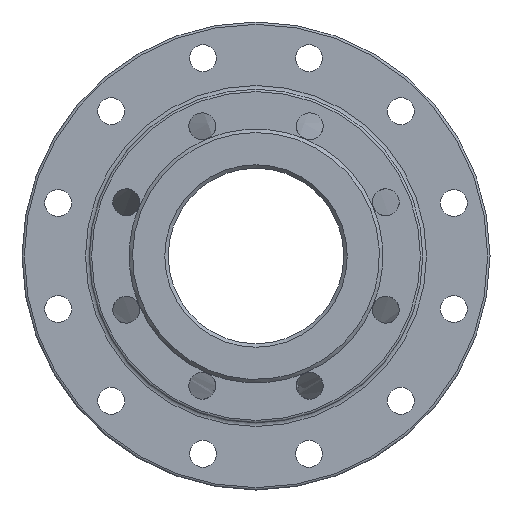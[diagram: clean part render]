
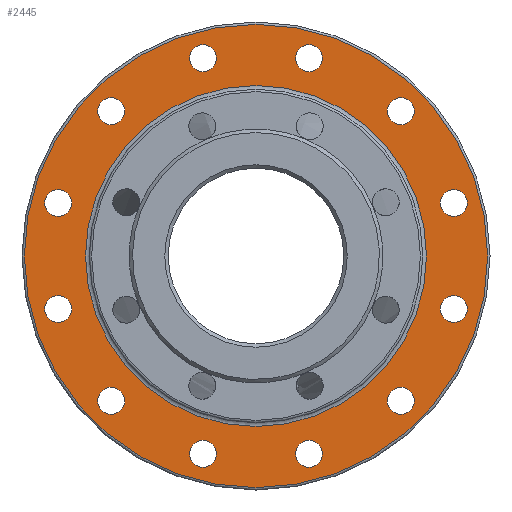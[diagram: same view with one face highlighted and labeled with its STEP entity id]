
A CAD part, left-side view. The second image highlights one B-rep face of the part: STEP entity #2445.
In plain terms, the highlighted planar face has unit normal (-1, 0, 0).
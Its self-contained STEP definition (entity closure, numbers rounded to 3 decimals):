
#9 = ORIENTED_EDGE ( 'NONE', *, *, #1937, .T. ) ;
#53 = ORIENTED_EDGE ( 'NONE', *, *, #610, .T. ) ;
#70 = CIRCLE ( 'NONE', #1980, 11.5 ) ;
#78 = AXIS2_PLACEMENT_3D ( 'NONE', #1940, #2544, #2335 ) ;
#119 = CARTESIAN_POINT ( 'NONE',  ( 278., 123.744, -135.244 ) ) ;
#124 = FACE_BOUND ( 'NONE', #1516, .T. ) ;
#133 = VERTEX_POINT ( 'NONE', #2315 ) ;
#137 = FACE_BOUND ( 'NONE', #1667, .T. ) ;
#228 = DIRECTION ( 'NONE',  ( 0., 0., -1. ) ) ;
#284 = EDGE_CURVE ( 'NONE', #1117, #1117, #646, .T. ) ;
#288 = FACE_BOUND ( 'NONE', #2427, .T. ) ;
#303 = CARTESIAN_POINT ( 'NONE',  ( 278., -169.037, -56.793 ) ) ;
#308 = FACE_BOUND ( 'NONE', #1560, .T. ) ;
#326 = ORIENTED_EDGE ( 'NONE', *, *, #1727, .T. ) ;
#335 = ORIENTED_EDGE ( 'NONE', *, *, #1057, .T. ) ;
#341 = DIRECTION ( 'NONE',  ( 0., 0., -1. ) ) ;
#349 = EDGE_CURVE ( 'NONE', #1784, #1784, #738, .T. ) ;
#375 = DIRECTION ( 'NONE',  ( 1., 0., 0. ) ) ;
#385 = CIRCLE ( 'NONE', #1311, 11.5 ) ;
#412 = ORIENTED_EDGE ( 'NONE', *, *, #1154, .T. ) ;
#421 = CIRCLE ( 'NONE', #2251, 11.5 ) ;
#449 = DIRECTION ( 'NONE',  ( 0., 0., -1. ) ) ;
#454 = ORIENTED_EDGE ( 'NONE', *, *, #1243, .T. ) ;
#487 = ORIENTED_EDGE ( 'NONE', *, *, #1210, .T. ) ;
#503 = FACE_BOUND ( 'NONE', #1651, .T. ) ;
#528 = VERTEX_POINT ( 'NONE', #1373 ) ;
#533 = FACE_BOUND ( 'NONE', #1520, .T. ) ;
#549 = DIRECTION ( 'NONE',  ( 1., 0., 0. ) ) ;
#554 = CARTESIAN_POINT ( 'NONE',  ( 278., -123.744, -135.244 ) ) ;
#558 = FACE_BOUND ( 'NONE', #1003, .T. ) ;
#599 = CARTESIAN_POINT ( 'NONE',  ( 278., -123.744, 123.744 ) ) ;
#610 = EDGE_CURVE ( 'NONE', #711, #711, #2479, .T. ) ;
#616 = AXIS2_PLACEMENT_3D ( 'NONE', #2465, #1424, #341 ) ;
#618 = EDGE_CURVE ( 'NONE', #1603, #1603, #421, .T. ) ;
#620 = CARTESIAN_POINT ( 'NONE',  ( 278., -45.293, 169.037 ) ) ;
#646 = CIRCLE ( 'NONE', #2206, 11.5 ) ;
#650 = CIRCLE ( 'NONE', #2208, 11.5 ) ;
#661 = CARTESIAN_POINT ( 'NONE',  ( 278., -123.744, -123.744 ) ) ;
#711 = VERTEX_POINT ( 'NONE', #2661 ) ;
#715 = FACE_BOUND ( 'NONE', #899, .T. ) ;
#723 = CARTESIAN_POINT ( 'NONE',  ( 278., 45.293, -180.537 ) ) ;
#735 = EDGE_LOOP ( 'NONE', ( #53 ) ) ;
#738 = CIRCLE ( 'NONE', #2298, 11.5 ) ;
#740 = ORIENTED_EDGE ( 'NONE', *, *, #1828, .T. ) ;
#788 = EDGE_LOOP ( 'NONE', ( #454 ) ) ;
#831 = VERTEX_POINT ( 'NONE', #2534 ) ;
#899 = EDGE_LOOP ( 'NONE', ( #412 ) ) ;
#914 = VERTEX_POINT ( 'NONE', #2412 ) ;
#919 = DIRECTION ( 'NONE',  ( 1., 0., 0. ) ) ;
#958 = DIRECTION ( 'NONE',  ( 1., 0., 0. ) ) ;
#1003 = EDGE_LOOP ( 'NONE', ( #740 ) ) ;
#1015 = AXIS2_PLACEMENT_3D ( 'NONE', #1198, #549, #2247 ) ;
#1026 = VERTEX_POINT ( 'NONE', #1831 ) ;
#1034 = DIRECTION ( 'NONE',  ( 1., 0., 0. ) ) ;
#1045 = CIRCLE ( 'NONE', #2565, 11.5 ) ;
#1052 = AXIS2_PLACEMENT_3D ( 'NONE', #620, #375, #1847 ) ;
#1057 = EDGE_CURVE ( 'NONE', #1386, #1386, #1045, .T. ) ;
#1085 = AXIS2_PLACEMENT_3D ( 'NONE', #599, #1434, #2480 ) ;
#1108 = CARTESIAN_POINT ( 'NONE',  ( 278., 123.744, -123.744 ) ) ;
#1117 = VERTEX_POINT ( 'NONE', #303 ) ;
#1135 = CARTESIAN_POINT ( 'NONE',  ( 278., 142.5, 0. ) ) ;
#1154 = EDGE_CURVE ( 'NONE', #1773, #1773, #70, .T. ) ;
#1174 = CARTESIAN_POINT ( 'NONE',  ( 278., -169.037, 45.293 ) ) ;
#1175 = FACE_BOUND ( 'NONE', #2467, .T. ) ;
#1178 = ORIENTED_EDGE ( 'NONE', *, *, #2478, .T. ) ;
#1194 = FACE_BOUND ( 'NONE', #788, .T. ) ;
#1198 = CARTESIAN_POINT ( 'NONE',  ( 278., 169.037, 45.293 ) ) ;
#1210 = EDGE_CURVE ( 'NONE', #1559, #1559, #650, .T. ) ;
#1243 = EDGE_CURVE ( 'NONE', #528, #528, #385, .T. ) ;
#1252 = CARTESIAN_POINT ( 'NONE',  ( 278., 123.744, 123.744 ) ) ;
#1258 = EDGE_LOOP ( 'NONE', ( #2488 ) ) ;
#1286 = DIRECTION ( 'NONE',  ( 0., 0., -1. ) ) ;
#1294 = EDGE_CURVE ( 'NONE', #1356, #1356, #1896, .T. ) ;
#1311 = AXIS2_PLACEMENT_3D ( 'NONE', #2692, #958, #1389 ) ;
#1356 = VERTEX_POINT ( 'NONE', #2226 ) ;
#1373 = CARTESIAN_POINT ( 'NONE',  ( 278., 169.037, -56.793 ) ) ;
#1386 = VERTEX_POINT ( 'NONE', #723 ) ;
#1389 = DIRECTION ( 'NONE',  ( 0., 0., -1. ) ) ;
#1400 = FACE_BOUND ( 'NONE', #735, .T. ) ;
#1419 = ORIENTED_EDGE ( 'NONE', *, *, #618, .T. ) ;
#1424 = DIRECTION ( 'NONE',  ( 1., 0., 0. ) ) ;
#1433 = CARTESIAN_POINT ( 'NONE',  ( 278., 45.293, -169.037 ) ) ;
#1434 = DIRECTION ( 'NONE',  ( 1., 0., 0. ) ) ;
#1504 = DIRECTION ( 'NONE',  ( 0., 0., -1. ) ) ;
#1516 = EDGE_LOOP ( 'NONE', ( #326 ) ) ;
#1520 = EDGE_LOOP ( 'NONE', ( #487 ) ) ;
#1530 = CARTESIAN_POINT ( 'NONE',  ( 278., -169.037, -45.293 ) ) ;
#1537 = AXIS2_PLACEMENT_3D ( 'NONE', #1135, #2638, #2045 ) ;
#1559 = VERTEX_POINT ( 'NONE', #119 ) ;
#1560 = EDGE_LOOP ( 'NONE', ( #1178 ) ) ;
#1577 = CIRCLE ( 'NONE', #616, 145.685 ) ;
#1603 = VERTEX_POINT ( 'NONE', #554 ) ;
#1651 = EDGE_LOOP ( 'NONE', ( #2625 ) ) ;
#1667 = EDGE_LOOP ( 'NONE', ( #9 ) ) ;
#1673 = CARTESIAN_POINT ( 'NONE',  ( 278., 0., -198. ) ) ;
#1683 = DIRECTION ( 'NONE',  ( 1., 0., 0. ) ) ;
#1727 = EDGE_CURVE ( 'NONE', #914, #914, #1577, .T. ) ;
#1744 = DIRECTION ( 'NONE',  ( 0., 0., -1. ) ) ;
#1764 = FACE_BOUND ( 'NONE', #1258, .T. ) ;
#1773 = VERTEX_POINT ( 'NONE', #2239 ) ;
#1784 = VERTEX_POINT ( 'NONE', #2022 ) ;
#1806 = CIRCLE ( 'NONE', #1015, 11.5 ) ;
#1820 = PLANE ( 'NONE',  #1537 ) ;
#1828 = EDGE_CURVE ( 'NONE', #1026, #1026, #1856, .T. ) ;
#1831 = CARTESIAN_POINT ( 'NONE',  ( 278., 123.744, 112.244 ) ) ;
#1847 = DIRECTION ( 'NONE',  ( 0., 0., -1. ) ) ;
#1856 = CIRCLE ( 'NONE', #2711, 11.5 ) ;
#1896 = CIRCLE ( 'NONE', #2657, 11.5 ) ;
#1923 = DIRECTION ( 'NONE',  ( 1., 0., 0. ) ) ;
#1937 = EDGE_CURVE ( 'NONE', #831, #831, #1806, .T. ) ;
#1940 = CARTESIAN_POINT ( 'NONE',  ( 278., 0., 0. ) ) ;
#1960 = DIRECTION ( 'NONE',  ( 1., 0., 0. ) ) ;
#1967 = CARTESIAN_POINT ( 'NONE',  ( 278., -45.293, -169.037 ) ) ;
#1980 = AXIS2_PLACEMENT_3D ( 'NONE', #2200, #919, #228 ) ;
#2002 = DIRECTION ( 'NONE',  ( 1., 0., 0. ) ) ;
#2022 = CARTESIAN_POINT ( 'NONE',  ( 278., -45.293, -180.537 ) ) ;
#2045 = DIRECTION ( 'NONE',  ( 0., 0., -1. ) ) ;
#2055 = DIRECTION ( 'NONE',  ( 0., 0., -1. ) ) ;
#2169 = CIRCLE ( 'NONE', #78, 198. ) ;
#2200 = CARTESIAN_POINT ( 'NONE',  ( 278., 45.293, 169.037 ) ) ;
#2201 = FACE_BOUND ( 'NONE', #2381, .T. ) ;
#2206 = AXIS2_PLACEMENT_3D ( 'NONE', #1530, #1923, #1286 ) ;
#2208 = AXIS2_PLACEMENT_3D ( 'NONE', #1108, #1960, #1744 ) ;
#2218 = FACE_OUTER_BOUND ( 'NONE', #2736, .T. ) ;
#2226 = CARTESIAN_POINT ( 'NONE',  ( 278., -169.037, 33.793 ) ) ;
#2239 = CARTESIAN_POINT ( 'NONE',  ( 278., 45.293, 157.537 ) ) ;
#2247 = DIRECTION ( 'NONE',  ( 0., 0., -1. ) ) ;
#2251 = AXIS2_PLACEMENT_3D ( 'NONE', #661, #2363, #449 ) ;
#2266 = CIRCLE ( 'NONE', #1052, 11.5 ) ;
#2292 = DIRECTION ( 'NONE',  ( 0., 0., -1. ) ) ;
#2298 = AXIS2_PLACEMENT_3D ( 'NONE', #1967, #1683, #1504 ) ;
#2315 = CARTESIAN_POINT ( 'NONE',  ( 278., -45.293, 157.537 ) ) ;
#2335 = DIRECTION ( 'NONE',  ( 0., 0., -1. ) ) ;
#2340 = DIRECTION ( 'NONE',  ( 1., 0., 0. ) ) ;
#2359 = ORIENTED_EDGE ( 'NONE', *, *, #2737, .T. ) ;
#2363 = DIRECTION ( 'NONE',  ( 1., 0., 0. ) ) ;
#2381 = EDGE_LOOP ( 'NONE', ( #1419 ) ) ;
#2412 = CARTESIAN_POINT ( 'NONE',  ( 278., 0., -145.685 ) ) ;
#2427 = EDGE_LOOP ( 'NONE', ( #2735 ) ) ;
#2445 = ADVANCED_FACE ( 'NONE', ( #124, #2218, #533, #1194, #137, #558, #715, #308, #1400, #503, #1764, #2201, #288, #1175 ), #1820, .F. ) ;
#2465 = CARTESIAN_POINT ( 'NONE',  ( 278., 0., 0. ) ) ;
#2467 = EDGE_LOOP ( 'NONE', ( #335 ) ) ;
#2478 = EDGE_CURVE ( 'NONE', #133, #133, #2266, .T. ) ;
#2479 = CIRCLE ( 'NONE', #1085, 11.5 ) ;
#2480 = DIRECTION ( 'NONE',  ( 0., 0., -1. ) ) ;
#2488 = ORIENTED_EDGE ( 'NONE', *, *, #284, .T. ) ;
#2534 = CARTESIAN_POINT ( 'NONE',  ( 278., 169.037, 33.793 ) ) ;
#2544 = DIRECTION ( 'NONE',  ( -1., 0., 0. ) ) ;
#2565 = AXIS2_PLACEMENT_3D ( 'NONE', #1433, #2340, #2292 ) ;
#2625 = ORIENTED_EDGE ( 'NONE', *, *, #1294, .T. ) ;
#2638 = DIRECTION ( 'NONE',  ( 1., 0., 0. ) ) ;
#2657 = AXIS2_PLACEMENT_3D ( 'NONE', #1174, #2002, #2055 ) ;
#2661 = CARTESIAN_POINT ( 'NONE',  ( 278., -123.744, 112.244 ) ) ;
#2692 = CARTESIAN_POINT ( 'NONE',  ( 278., 169.037, -45.293 ) ) ;
#2711 = AXIS2_PLACEMENT_3D ( 'NONE', #1252, #1034, #2754 ) ;
#2735 = ORIENTED_EDGE ( 'NONE', *, *, #349, .T. ) ;
#2736 = EDGE_LOOP ( 'NONE', ( #2359 ) ) ;
#2737 = EDGE_CURVE ( 'NONE', #2742, #2742, #2169, .T. ) ;
#2742 = VERTEX_POINT ( 'NONE', #1673 ) ;
#2754 = DIRECTION ( 'NONE',  ( 0., 0., -1. ) ) ;
